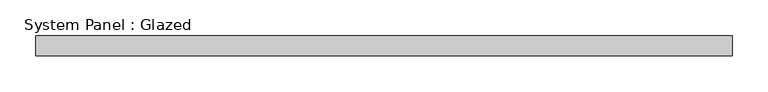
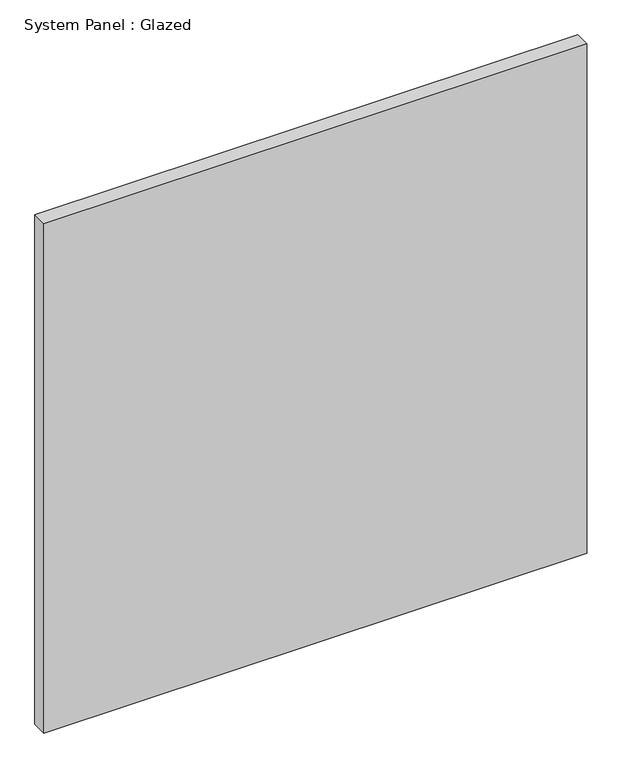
"""IFC4 building model written with IfcOpenShell, lengths in millimetres: plate geometry, System Panel : Glazed."""

from ifc_helpers import new_model, si_unit, origin, origin_with_axes, place, context, project, spatial, polyline, outline, extrude, source, transform, mapped, element, save


def system_panel_glazed_185e8e03(model_context):
    return source(origin(), model_context, "Body", "SweptSolid", [
        extrude(outline(polyline([(485.5, -14.0), (-485.5, -14.0), (-485.5, 14.0), (485.5, 14.0), (485.5, -14.0)])), origin_with_axes(), (0.0, 0.0, 1.0), 963.0),
    ])


if __name__ == "__main__":
    model = new_model("IFC4")
    model_context = context("Model", 3, world=origin())
    ifc_project = project(units=[si_unit("LENGTHUNIT", "METRE", prefix="MILLI")], contexts=[model_context])
    site = spatial("IfcSite", under=ifc_project)
    building = spatial("IfcBuilding", under=site)
    placement = place(None, origin())
    system_panel_glazed_shape = system_panel_glazed_185e8e03(model_context)
    element("IfcPlate", 1, ObjectType="System Panel : Glazed", at=placement, inside=building, context=model_context, shape_type="MappedRepresentation", body=[
        mapped(system_panel_glazed_shape, transform((0.0, 0.0, 0.0), x_axis=(1.0, 0.0, 0.0), y_axis=(0.0, 1.0, 0.0), z_axis=(0.0, 0.0, 1.0))),
    ])
    save(model, "model.ifc")
